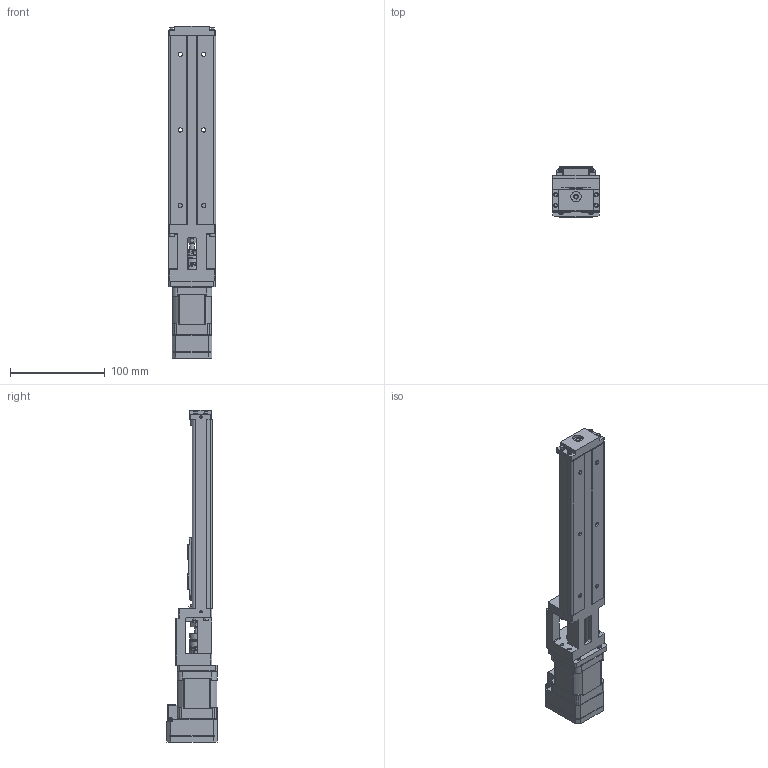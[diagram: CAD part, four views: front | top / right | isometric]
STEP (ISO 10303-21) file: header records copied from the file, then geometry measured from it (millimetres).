
FILE_DESCRIPTION (( 'STEP AP214' ), '1' );
FILE_NAME ('PA26-A-02-110-S-00A0-17L30-X.STEP', '2015-01-06T14:31:36', ( '' ), ( '' ), 'SwSTEP 2.0', 'SolidWorks 2015', '' );
FILE_SCHEMA (( 'AUTOMOTIVE_DESIGN' ));
Length unit declared in the file: millimetre
Products named in the file (5): PA26-A-02-110-S-00A0; RCLA16C-5-5; PA26-NEMA17-MountingBracket; CM1-X-17L30-NE-RENDER; PA26-A-02-110-S-00A0-17L30-X
Assembly tree (4 placements, depth 2):
  PA26-A-02-110-S-00A0-17L30-X
    CM1-X-17L30-NE-RENDER
    PA26-NEMA17-MountingBracket
    RCLA16C-5-5
    PA26-A-02-110-S-00A0
Bounding box: 50 x 53 x 351.3 mm (x, y, z)
Volume: 351947.7 mm3; surface area: 107519.8 mm2
Topology: 4 solids, 6 shells, 1690 faces, 4642 edges, 3002 vertices
Faces by surface type: plane 1002, cylinder 525, cone 121, bspline 20, torus 20, sphere 2
Entity records: 66016 total; most frequent: CARTESIAN_POINT 10593, ORIENTED_EDGE 9118, DIRECTION 9104, EDGE_CURVE 4598, VECTOR 3218, LINE 3218, VERTEX_POINT 3000, AXIS2_PLACEMENT_3D 2943
